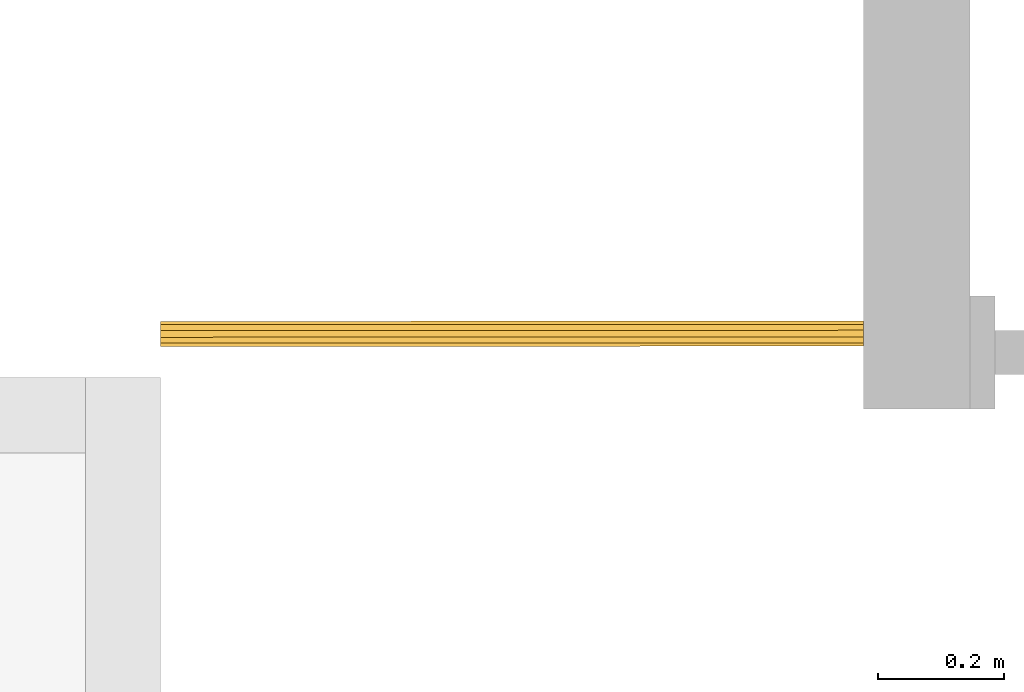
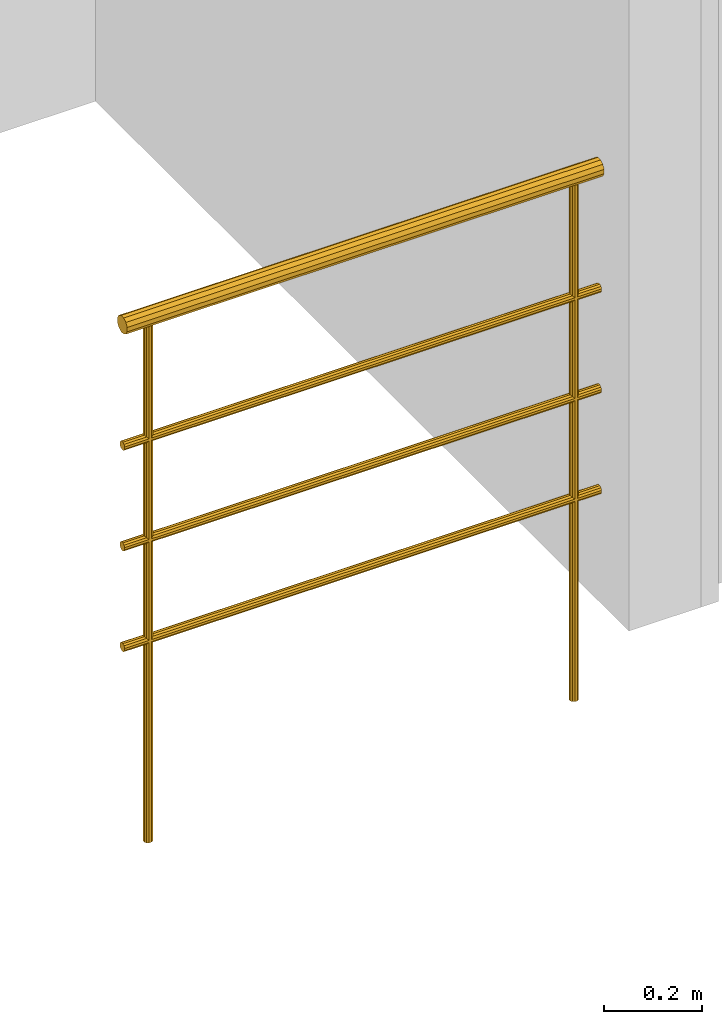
"""IFC4 building model written with IfcOpenShell, lengths in metres."""

from ifc_helpers import new_model, entity, si_unit, converted_unit, derived_unit, frame, origin, place, context, subcontext, project, spatial, faceted_brep, element, save


model = new_model("IFC4")

# Units and contexts
model_context = context("Model", 3, precision=1e-05, world=origin())
body_context = subcontext(model_context, "Body", "Model", "MODEL_VIEW")
ifc_project = project(units=[si_unit("LENGTHUNIT", "METRE"), si_unit("AREAUNIT", "SQUARE_METRE"), si_unit("VOLUMEUNIT", "CUBIC_METRE"), si_unit("MASSUNIT", "GRAM", prefix="KILO"), converted_unit("PLANEANGLEUNIT", "DEGREE", entity("IfcPlaneAngleMeasure", 0.0174532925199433), si_unit("PLANEANGLEUNIT", "RADIAN"), dimensions=[0, 0, 0, 0, 0, 0, 0]), derived_unit("THERMALTRANSMITTANCEUNIT", [(si_unit("POWERUNIT", "WATT"), 1), (si_unit("THERMODYNAMICTEMPERATUREUNIT", "KELVIN"), -1), (si_unit("LENGTHUNIT", "METRE"), -2)]), derived_unit("VOLUMETRICFLOWRATEUNIT", [(si_unit("LENGTHUNIT", "METRE"), 3), (converted_unit("TIMEUNIT", "hour", entity("IfcTimeMeasure", 3600.0), si_unit("TIMEUNIT", "SECOND"), dimensions=[0, 0, 1, 0, 0, 0, 0]), -1), (si_unit("LENGTHUNIT", "METRE"), -1)])], contexts=[model_context])

# Building, storeys
building_placement = place(None, origin())
building = spatial("IfcBuilding", under=ifc_project, at=building_placement, Name="HABITATGE PLURIFAMILIAR", CompositionType="ELEMENT")
storey_1_placement = place(building_placement, frame((0.0, 0.0, 21.2)))
storey_1 = spatial("IfcBuildingStorey", under=building, at=storey_1_placement, Name="PLANTA SOTACOBERTA", CompositionType="ELEMENT", Elevation=21.2)
storey_2_placement = place(storey_1_placement, origin())
storey_2 = spatial("IfcBuildingStorey", under=storey_1, at=storey_2_placement, Name="NOU", CompositionType="PARTIAL")

# Railing
railing_placement = place(storey_2_placement, frame((414.656916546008, 25.9893812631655, -0.220064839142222)))
element("IfcRailing", 1, at=railing_placement, inside=storey_2, Name="Baranna PSC", context=body_context, shape_type="Brep", body=[
    faceted_brep([(0.0, 0.0399999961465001, 1.30535898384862), (2.35231395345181e-06, 0.034641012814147, 1.31464101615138), (6.42664113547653e-06, 0.0253589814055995, 1.32), (1.11312690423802e-05, 0.0146410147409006, 1.32), (1.52055962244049e-05, 0.00535898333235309, 1.31464101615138), (1.75579101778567e-05, 0.0, 1.30535898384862), (1.75579101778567e-05, 0.0, 1.29464101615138), (1.52055962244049e-05, 0.00535898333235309, 1.28535898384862), (1.11312690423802e-05, 0.0146410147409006, 1.28), (6.42664113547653e-06, 0.0253589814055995, 1.28), (2.35231395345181e-06, 0.034641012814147, 1.28535898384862), (0.0, 0.0399999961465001, 1.29464101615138), (1.12005218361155, 0.040491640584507, 1.30535898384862), (1.12005218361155, 0.040491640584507, 1.29464101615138), (1.1200545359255, 0.0351326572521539, 1.28535898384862), (1.12005861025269, 0.0258506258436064, 1.28), (1.12006331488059, 0.0151326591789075, 1.28), (1.12006738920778, 0.00585062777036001, 1.28535898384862), (1.12006974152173, 0.000491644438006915, 1.29464101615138), (1.12006974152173, 0.000491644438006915, 1.30535898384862), (1.12006738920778, 0.00585062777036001, 1.31464101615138), (1.12006331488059, 0.0151326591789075, 1.32), (1.12005861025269, 0.0258506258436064, 1.32), (1.1200545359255, 0.0351326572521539, 1.31464101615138)], [[[0, 1, 2, 3, 4, 5, 6, 7, 8, 9, 10, 11]], [[12, 13, 14, 15, 16, 17, 18, 19, 20, 21, 22, 23]], [[0, 12, 23, 1]], [[1, 23, 22, 2]], [[2, 22, 21, 3]], [[3, 21, 20, 4]], [[4, 20, 19, 5]], [[5, 19, 18, 6]], [[6, 18, 17, 7]], [[7, 17, 16, 8]], [[8, 16, 15, 9]], [[9, 15, 14, 10]], [[10, 14, 13, 11]], [[11, 13, 12, 0]]], orient=[[False], [False], [False], [False], [False], [False], [False], [False], [False], [False], [False], [False], [False], [False]]),
    faceted_brep([(0.0700337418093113, 0.0227102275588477, 0.0), (0.0673522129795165, 0.0273500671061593, 0.0), (0.0627100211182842, 0.0300275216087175, 0.0), (0.0573510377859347, 0.0300251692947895, 0.0), (0.0527111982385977, 0.0273436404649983, 0.0), (0.0500337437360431, 0.0227014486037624, 0.0), (0.0500360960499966, 0.0173424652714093, 0.0), (0.0527176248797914, 0.0127026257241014, 0.0), (0.0573598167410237, 0.0100251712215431, 0.0), (0.0627188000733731, 0.0100275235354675, 0.0), (0.067358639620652, 0.0127090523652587, 0.0), (0.0700360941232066, 0.0173512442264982, 0.0), (0.0700337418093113, 0.0227102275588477, 1.3), (0.0700360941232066, 0.0173512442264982, 1.3), (0.067358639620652, 0.0127090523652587, 1.3), (0.0627188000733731, 0.0100275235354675, 1.3), (0.0573598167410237, 0.0100251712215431, 1.3), (0.0527176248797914, 0.0127026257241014, 1.3), (0.0500360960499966, 0.0173424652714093, 1.3), (0.0500337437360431, 0.0227014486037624, 1.3), (0.0527111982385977, 0.0273436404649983, 1.3), (0.0573510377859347, 0.0300251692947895, 1.3), (0.0627100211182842, 0.0300275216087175, 1.3), (0.0673522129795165, 0.0273500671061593, 1.3)], [[[0, 1, 2, 3, 4, 5, 6, 7, 8, 9, 10, 11]], [[12, 13, 14, 15, 16, 17, 18, 19, 20, 21, 22, 23]], [[0, 12, 23, 1]], [[1, 23, 22, 2]], [[2, 22, 21, 3]], [[3, 21, 20, 4]], [[4, 20, 19, 5]], [[5, 19, 18, 6]], [[6, 18, 17, 7]], [[7, 17, 16, 8]], [[8, 16, 15, 9]], [[9, 15, 14, 10]], [[10, 14, 13, 11]], [[11, 13, 12, 0]]], orient=[[False], [False], [False], [False], [False], [False], [False], [False], [False], [False], [False], [False], [False], [False]]),
    faceted_brep([(0.0700337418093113, 0.0227102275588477, 0.0), (0.0673522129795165, 0.0273500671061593, 0.0), (0.0627100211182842, 0.0300275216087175, 0.0), (0.0573510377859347, 0.0300251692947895, 0.0), (0.0527111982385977, 0.0273436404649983, 0.0), (0.0500337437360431, 0.0227014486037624, 0.0), (0.0500360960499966, 0.0173424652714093, 0.0), (0.0527176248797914, 0.0127026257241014, 0.0), (0.0573598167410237, 0.0100251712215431, 0.0), (0.0627188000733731, 0.0100275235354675, 0.0), (0.067358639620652, 0.0127090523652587, 0.0), (0.0700360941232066, 0.0173512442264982, 0.0), (0.0700337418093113, 0.0227102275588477, 1.3), (0.0700360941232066, 0.0173512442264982, 1.3), (0.067358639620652, 0.0127090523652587, 1.3), (0.0627188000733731, 0.0100275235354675, 1.3), (0.0573598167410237, 0.0100251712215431, 1.3), (0.0527176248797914, 0.0127026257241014, 1.3), (0.0500360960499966, 0.0173424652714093, 1.3), (0.0500337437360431, 0.0227014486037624, 1.3), (0.0527111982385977, 0.0273436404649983, 1.3), (0.0573510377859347, 0.0300251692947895, 1.3), (0.0627100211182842, 0.0300275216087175, 1.3), (0.0673522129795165, 0.0273500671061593, 1.3)], [[[0, 1, 2, 3, 4, 5, 6, 7, 8, 9, 10, 11]], [[12, 13, 14, 15, 16, 17, 18, 19, 20, 21, 22, 23]], [[0, 12, 23, 1]], [[1, 23, 22, 2]], [[2, 22, 21, 3]], [[3, 21, 20, 4]], [[4, 20, 19, 5]], [[5, 19, 18, 6]], [[6, 18, 17, 7]], [[7, 17, 16, 8]], [[8, 16, 15, 9]], [[9, 15, 14, 10]], [[10, 14, 13, 11]], [[11, 13, 12, 0]]], orient=[[False], [False], [False], [False], [False], [False], [False], [False], [False], [False], [False], [False], [False], [False]]),
    faceted_brep([(0.0700337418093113, 0.0227102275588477, 0.0), (0.0673522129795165, 0.0273500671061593, 0.0), (0.0627100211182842, 0.0300275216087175, 0.0), (0.0573510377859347, 0.0300251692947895, 0.0), (0.0527111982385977, 0.0273436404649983, 0.0), (0.0500337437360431, 0.0227014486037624, 0.0), (0.0500360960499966, 0.0173424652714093, 0.0), (0.0527176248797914, 0.0127026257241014, 0.0), (0.0573598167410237, 0.0100251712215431, 0.0), (0.0627188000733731, 0.0100275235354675, 0.0), (0.067358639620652, 0.0127090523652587, 0.0), (0.0700360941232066, 0.0173512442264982, 0.0), (0.0700337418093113, 0.0227102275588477, 1.3), (0.0700360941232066, 0.0173512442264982, 1.3), (0.067358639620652, 0.0127090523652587, 1.3), (0.0627188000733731, 0.0100275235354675, 1.3), (0.0573598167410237, 0.0100251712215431, 1.3), (0.0527176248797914, 0.0127026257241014, 1.3), (0.0500360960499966, 0.0173424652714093, 1.3), (0.0500337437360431, 0.0227014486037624, 1.3), (0.0527111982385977, 0.0273436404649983, 1.3), (0.0573510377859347, 0.0300251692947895, 1.3), (0.0627100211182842, 0.0300275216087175, 1.3), (0.0673522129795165, 0.0273500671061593, 1.3)], [[[0, 1, 2, 3, 4, 5, 6, 7, 8, 9, 10, 11]], [[12, 13, 14, 15, 16, 17, 18, 19, 20, 21, 22, 23]], [[0, 12, 23, 1]], [[1, 23, 22, 2]], [[2, 22, 21, 3]], [[3, 21, 20, 4]], [[4, 20, 19, 5]], [[5, 19, 18, 6]], [[6, 18, 17, 7]], [[7, 17, 16, 8]], [[8, 16, 15, 9]], [[9, 15, 14, 10]], [[10, 14, 13, 11]], [[11, 13, 12, 0]]], orient=[[False], [False], [False], [False], [False], [False], [False], [False], [False], [False], [False], [False], [False], [False]]),
    faceted_brep([(1.07003364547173, 0.0231491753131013, 0.0), (1.06735211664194, 0.0277890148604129, 0.0), (1.06270992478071, 0.0304664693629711, 0.0), (1.05735094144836, 0.0304641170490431, 0.0), (1.05271110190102, 0.0277825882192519, 0.0), (1.05003364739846, 0.023140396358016, 0.0), (1.05003599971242, 0.0177814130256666, 0.0), (1.05271752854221, 0.013141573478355, 0.0), (1.05735972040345, 0.0104641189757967, 0.0), (1.06271870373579, 0.0104664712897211, 0.0), (1.06735854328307, 0.0131480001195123, 0.0), (1.07003599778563, 0.0177901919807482, 0.0), (1.07003364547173, 0.0231491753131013, 1.3), (1.07003599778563, 0.0177901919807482, 1.3), (1.06735854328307, 0.0131480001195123, 1.3), (1.06271870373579, 0.0104664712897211, 1.3), (1.05735972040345, 0.0104641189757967, 1.3), (1.05271752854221, 0.013141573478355, 1.3), (1.05003599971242, 0.0177814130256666, 1.3), (1.05003364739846, 0.023140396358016, 1.3), (1.05271110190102, 0.0277825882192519, 1.3), (1.05735094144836, 0.0304641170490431, 1.3), (1.06270992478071, 0.0304664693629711, 1.3), (1.06735211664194, 0.0277890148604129, 1.3)], [[[0, 1, 2, 3, 4, 5, 6, 7, 8, 9, 10, 11]], [[12, 13, 14, 15, 16, 17, 18, 19, 20, 21, 22, 23]], [[0, 12, 23, 1]], [[1, 23, 22, 2]], [[2, 22, 21, 3]], [[3, 21, 20, 4]], [[4, 20, 19, 5]], [[5, 19, 18, 6]], [[6, 18, 17, 7]], [[7, 17, 16, 8]], [[8, 16, 15, 9]], [[9, 15, 14, 10]], [[10, 14, 13, 11]], [[11, 13, 12, 0]]], orient=[[False], [False], [False], [False], [False], [False], [False], [False], [False], [False], [False], [False], [False], [False]]),
    faceted_brep([(1.07003364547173, 0.0231491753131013, 0.0), (1.06735211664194, 0.0277890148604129, 0.0), (1.06270992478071, 0.0304664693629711, 0.0), (1.05735094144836, 0.0304641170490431, 0.0), (1.05271110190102, 0.0277825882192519, 0.0), (1.05003364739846, 0.023140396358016, 0.0), (1.05003599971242, 0.0177814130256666, 0.0), (1.05271752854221, 0.013141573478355, 0.0), (1.05735972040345, 0.0104641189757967, 0.0), (1.06271870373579, 0.0104664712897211, 0.0), (1.06735854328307, 0.0131480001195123, 0.0), (1.07003599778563, 0.0177901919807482, 0.0), (1.07003364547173, 0.0231491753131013, 1.3), (1.07003599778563, 0.0177901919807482, 1.3), (1.06735854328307, 0.0131480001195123, 1.3), (1.06271870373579, 0.0104664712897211, 1.3), (1.05735972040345, 0.0104641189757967, 1.3), (1.05271752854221, 0.013141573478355, 1.3), (1.05003599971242, 0.0177814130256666, 1.3), (1.05003364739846, 0.023140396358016, 1.3), (1.05271110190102, 0.0277825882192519, 1.3), (1.05735094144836, 0.0304641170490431, 1.3), (1.06270992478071, 0.0304664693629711, 1.3), (1.06735211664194, 0.0277890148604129, 1.3)], [[[0, 1, 2, 3, 4, 5, 6, 7, 8, 9, 10, 11]], [[12, 13, 14, 15, 16, 17, 18, 19, 20, 21, 22, 23]], [[0, 12, 23, 1]], [[1, 23, 22, 2]], [[2, 22, 21, 3]], [[3, 21, 20, 4]], [[4, 20, 19, 5]], [[5, 19, 18, 6]], [[6, 18, 17, 7]], [[7, 17, 16, 8]], [[8, 16, 15, 9]], [[9, 15, 14, 10]], [[10, 14, 13, 11]], [[11, 13, 12, 0]]], orient=[[False], [False], [False], [False], [False], [False], [False], [False], [False], [False], [False], [False], [False], [False]]),
    faceted_brep([(1.07003364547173, 0.0231491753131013, 0.0), (1.06735211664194, 0.0277890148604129, 0.0), (1.06270992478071, 0.0304664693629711, 0.0), (1.05735094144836, 0.0304641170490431, 0.0), (1.05271110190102, 0.0277825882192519, 0.0), (1.05003364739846, 0.023140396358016, 0.0), (1.05003599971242, 0.0177814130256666, 0.0), (1.05271752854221, 0.013141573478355, 0.0), (1.05735972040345, 0.0104641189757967, 0.0), (1.06271870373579, 0.0104664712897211, 0.0), (1.06735854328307, 0.0131480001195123, 0.0), (1.07003599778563, 0.0177901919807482, 0.0), (1.07003364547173, 0.0231491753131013, 1.3), (1.07003599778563, 0.0177901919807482, 1.3), (1.06735854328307, 0.0131480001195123, 1.3), (1.06271870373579, 0.0104664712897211, 1.3), (1.05735972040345, 0.0104641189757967, 1.3), (1.05271752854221, 0.013141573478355, 1.3), (1.05003599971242, 0.0177814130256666, 1.3), (1.05003364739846, 0.023140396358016, 1.3), (1.05271110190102, 0.0277825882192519, 1.3), (1.05735094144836, 0.0304641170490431, 1.3), (1.06270992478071, 0.0304664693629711, 1.3), (1.06735211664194, 0.0277890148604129, 1.3)], [[[0, 1, 2, 3, 4, 5, 6, 7, 8, 9, 10, 11]], [[12, 13, 14, 15, 16, 17, 18, 19, 20, 21, 22, 23]], [[0, 12, 23, 1]], [[1, 23, 22, 2]], [[2, 22, 21, 3]], [[3, 21, 20, 4]], [[4, 20, 19, 5]], [[5, 19, 18, 6]], [[6, 18, 17, 7]], [[7, 17, 16, 8]], [[8, 16, 15, 9]], [[9, 15, 14, 10]], [[10, 14, 13, 11]], [[11, 13, 12, 0]]], orient=[[False], [False], [False], [False], [False], [False], [False], [False], [False], [False], [False], [False], [False], [False]]),
    faceted_brep([(4.38947754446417e-06, 0.0299999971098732, 0.502679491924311), (5.56563452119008e-06, 0.0273205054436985, 0.507320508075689), (7.60279811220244e-06, 0.0226794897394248, 0.51), (9.95511206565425e-06, 0.0173205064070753, 0.51), (1.19922756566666e-05, 0.0126794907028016, 0.507320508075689), (1.31684326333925e-05, 0.00999999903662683, 0.502679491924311), (1.31684326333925e-05, 0.00999999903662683, 0.497320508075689), (1.19922756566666e-05, 0.0126794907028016, 0.492679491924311), (9.95511206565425e-06, 0.0173205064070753, 0.49), (7.60279811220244e-06, 0.0226794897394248, 0.49), (5.56563452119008e-06, 0.0273205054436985, 0.492679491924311), (4.38947754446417e-06, 0.0299999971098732, 0.497320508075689), (0.0600305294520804, 0.0300263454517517, 0.502679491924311), (0.0600305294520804, 0.0300263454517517, 0.497320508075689), (0.0600317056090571, 0.027346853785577, 0.492679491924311), (0.0600337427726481, 0.0227058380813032, 0.49), (0.0600360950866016, 0.0173468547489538, 0.49), (0.0600381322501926, 0.01270583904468, 0.492679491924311), (0.0600393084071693, 0.0100263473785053, 0.497320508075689), (0.0600393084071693, 0.0100263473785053, 0.502679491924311), (0.0600381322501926, 0.01270583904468, 0.507320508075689), (0.0600360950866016, 0.0173468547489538, 0.51), (0.0600337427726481, 0.0227058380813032, 0.51), (0.0600317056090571, 0.027346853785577, 0.507320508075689)], [[[0, 1, 2, 3, 4, 5, 6, 7, 8, 9, 10, 11]], [[12, 13, 14, 15, 16, 17, 18, 19, 20, 21, 22, 23]], [[0, 12, 23, 1]], [[1, 23, 22, 2]], [[2, 22, 21, 3]], [[3, 21, 20, 4]], [[4, 20, 19, 5]], [[5, 19, 18, 6]], [[6, 18, 17, 7]], [[7, 17, 16, 8]], [[8, 16, 15, 9]], [[9, 15, 14, 10]], [[10, 14, 13, 11]], [[11, 13, 12, 0]]], orient=[[False], [False], [False], [False], [False], [False], [False], [False], [False], [False], [False], [False], [False], [False]]),
    faceted_brep([(4.38947754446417e-06, 0.0299999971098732, 0.752679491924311), (5.56563452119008e-06, 0.0273205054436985, 0.757320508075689), (7.60279811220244e-06, 0.0226794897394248, 0.76), (9.95511206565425e-06, 0.0173205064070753, 0.76), (1.19922756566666e-05, 0.0126794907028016, 0.757320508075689), (1.31684326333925e-05, 0.00999999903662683, 0.752679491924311), (1.31684326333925e-05, 0.00999999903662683, 0.747320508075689), (1.19922756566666e-05, 0.0126794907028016, 0.742679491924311), (9.95511206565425e-06, 0.0173205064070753, 0.74), (7.60279811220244e-06, 0.0226794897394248, 0.74), (5.56563452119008e-06, 0.0273205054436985, 0.742679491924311), (4.38947754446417e-06, 0.0299999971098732, 0.747320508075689), (0.0600305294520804, 0.0300263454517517, 0.752679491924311), (0.0600305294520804, 0.0300263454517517, 0.747320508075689), (0.0600317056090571, 0.027346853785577, 0.742679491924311), (0.0600337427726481, 0.0227058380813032, 0.74), (0.0600360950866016, 0.0173468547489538, 0.74), (0.0600381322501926, 0.01270583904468, 0.742679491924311), (0.0600393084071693, 0.0100263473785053, 0.747320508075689), (0.0600393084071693, 0.0100263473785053, 0.752679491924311), (0.0600381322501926, 0.01270583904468, 0.757320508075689), (0.0600360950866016, 0.0173468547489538, 0.76), (0.0600337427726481, 0.0227058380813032, 0.76), (0.0600317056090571, 0.027346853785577, 0.757320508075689)], [[[0, 1, 2, 3, 4, 5, 6, 7, 8, 9, 10, 11]], [[12, 13, 14, 15, 16, 17, 18, 19, 20, 21, 22, 23]], [[0, 12, 23, 1]], [[1, 23, 22, 2]], [[2, 22, 21, 3]], [[3, 21, 20, 4]], [[4, 20, 19, 5]], [[5, 19, 18, 6]], [[6, 18, 17, 7]], [[7, 17, 16, 8]], [[8, 16, 15, 9]], [[9, 15, 14, 10]], [[10, 14, 13, 11]], [[11, 13, 12, 0]]], orient=[[False], [False], [False], [False], [False], [False], [False], [False], [False], [False], [False], [False], [False], [False]]),
    faceted_brep([(4.38947754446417e-06, 0.0299999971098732, 1.00267949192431), (5.56563452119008e-06, 0.0273205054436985, 1.00732050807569), (7.60279811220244e-06, 0.0226794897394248, 1.01), (9.95511206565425e-06, 0.0173205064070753, 1.01), (1.19922756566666e-05, 0.0126794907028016, 1.00732050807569), (1.31684326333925e-05, 0.00999999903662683, 1.00267949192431), (1.31684326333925e-05, 0.00999999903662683, 0.997320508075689), (1.19922756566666e-05, 0.0126794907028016, 0.992679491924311), (9.95511206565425e-06, 0.0173205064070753, 0.99), (7.60279811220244e-06, 0.0226794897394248, 0.99), (5.56563452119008e-06, 0.0273205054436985, 0.992679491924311), (4.38947754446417e-06, 0.0299999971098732, 0.997320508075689), (0.0600305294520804, 0.0300263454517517, 1.00267949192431), (0.0600305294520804, 0.0300263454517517, 0.997320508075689), (0.0600317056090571, 0.027346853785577, 0.992679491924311), (0.0600337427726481, 0.0227058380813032, 0.99), (0.0600360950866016, 0.0173468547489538, 0.99), (0.0600381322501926, 0.01270583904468, 0.992679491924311), (0.0600393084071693, 0.0100263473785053, 0.997320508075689), (0.0600393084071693, 0.0100263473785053, 1.00267949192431), (0.0600381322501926, 0.01270583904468, 1.00732050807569), (0.0600360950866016, 0.0173468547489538, 1.01), (0.0600337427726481, 0.0227058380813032, 1.01), (0.0600317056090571, 0.027346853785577, 1.00732050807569)], [[[0, 1, 2, 3, 4, 5, 6, 7, 8, 9, 10, 11]], [[12, 13, 14, 15, 16, 17, 18, 19, 20, 21, 22, 23]], [[0, 12, 23, 1]], [[1, 23, 22, 2]], [[2, 22, 21, 3]], [[3, 21, 20, 4]], [[4, 20, 19, 5]], [[5, 19, 18, 6]], [[6, 18, 17, 7]], [[7, 17, 16, 8]], [[8, 16, 15, 9]], [[9, 15, 14, 10]], [[10, 14, 13, 11]], [[11, 13, 12, 0]]], orient=[[False], [False], [False], [False], [False], [False], [False], [False], [False], [False], [False], [False], [False], [False]]),
    faceted_brep([(0.0600305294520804, 0.0300263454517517, 0.502679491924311), (0.0600317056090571, 0.027346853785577, 0.507320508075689), (0.0600337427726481, 0.0227058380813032, 0.51), (0.0600360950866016, 0.0173468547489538, 0.51), (0.0600381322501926, 0.01270583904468, 0.507320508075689), (0.0600393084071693, 0.0100263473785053, 0.502679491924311), (0.0600393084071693, 0.0100263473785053, 0.497320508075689), (0.0600381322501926, 0.01270583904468, 0.492679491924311), (0.0600360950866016, 0.0173468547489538, 0.49), (0.0600337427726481, 0.0227058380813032, 0.49), (0.0600317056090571, 0.027346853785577, 0.492679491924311), (0.0600305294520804, 0.0300263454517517, 0.497320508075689), (1.0600304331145, 0.0304652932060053, 0.502679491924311), (1.0600304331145, 0.0304652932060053, 0.497320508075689), (1.06003160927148, 0.0277858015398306, 0.492679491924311), (1.06003364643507, 0.0231447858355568, 0.49), (1.06003599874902, 0.0177858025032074, 0.49), (1.06003803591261, 0.0131447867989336, 0.492679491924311), (1.06003921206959, 0.0104652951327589, 0.497320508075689), (1.06003921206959, 0.0104652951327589, 0.502679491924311), (1.06003803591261, 0.0131447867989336, 0.507320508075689), (1.06003599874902, 0.0177858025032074, 0.51), (1.06003364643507, 0.0231447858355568, 0.51), (1.06003160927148, 0.0277858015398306, 0.507320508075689)], [[[0, 1, 2, 3, 4, 5, 6, 7, 8, 9, 10, 11]], [[12, 13, 14, 15, 16, 17, 18, 19, 20, 21, 22, 23]], [[0, 12, 23, 1]], [[1, 23, 22, 2]], [[2, 22, 21, 3]], [[3, 21, 20, 4]], [[4, 20, 19, 5]], [[5, 19, 18, 6]], [[6, 18, 17, 7]], [[7, 17, 16, 8]], [[8, 16, 15, 9]], [[9, 15, 14, 10]], [[10, 14, 13, 11]], [[11, 13, 12, 0]]], orient=[[False], [False], [False], [False], [False], [False], [False], [False], [False], [False], [False], [False], [False], [False]]),
    faceted_brep([(0.0600305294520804, 0.0300263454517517, 0.752679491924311), (0.0600317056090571, 0.027346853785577, 0.757320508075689), (0.0600337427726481, 0.0227058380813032, 0.76), (0.0600360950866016, 0.0173468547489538, 0.76), (0.0600381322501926, 0.01270583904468, 0.757320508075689), (0.0600393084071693, 0.0100263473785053, 0.752679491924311), (0.0600393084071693, 0.0100263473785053, 0.747320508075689), (0.0600381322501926, 0.01270583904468, 0.742679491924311), (0.0600360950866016, 0.0173468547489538, 0.74), (0.0600337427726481, 0.0227058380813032, 0.74), (0.0600317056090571, 0.027346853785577, 0.742679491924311), (0.0600305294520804, 0.0300263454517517, 0.747320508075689), (1.0600304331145, 0.0304652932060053, 0.752679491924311), (1.0600304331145, 0.0304652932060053, 0.747320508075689), (1.06003160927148, 0.0277858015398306, 0.742679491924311), (1.06003364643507, 0.0231447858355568, 0.74), (1.06003599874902, 0.0177858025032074, 0.74), (1.06003803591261, 0.0131447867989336, 0.742679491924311), (1.06003921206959, 0.0104652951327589, 0.747320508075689), (1.06003921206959, 0.0104652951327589, 0.752679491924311), (1.06003803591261, 0.0131447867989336, 0.757320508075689), (1.06003599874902, 0.0177858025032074, 0.76), (1.06003364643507, 0.0231447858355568, 0.76), (1.06003160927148, 0.0277858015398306, 0.757320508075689)], [[[0, 1, 2, 3, 4, 5, 6, 7, 8, 9, 10, 11]], [[12, 13, 14, 15, 16, 17, 18, 19, 20, 21, 22, 23]], [[0, 12, 23, 1]], [[1, 23, 22, 2]], [[2, 22, 21, 3]], [[3, 21, 20, 4]], [[4, 20, 19, 5]], [[5, 19, 18, 6]], [[6, 18, 17, 7]], [[7, 17, 16, 8]], [[8, 16, 15, 9]], [[9, 15, 14, 10]], [[10, 14, 13, 11]], [[11, 13, 12, 0]]], orient=[[False], [False], [False], [False], [False], [False], [False], [False], [False], [False], [False], [False], [False], [False]]),
    faceted_brep([(0.0600305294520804, 0.0300263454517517, 1.00267949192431), (0.0600317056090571, 0.027346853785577, 1.00732050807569), (0.0600337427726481, 0.0227058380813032, 1.01), (0.0600360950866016, 0.0173468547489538, 1.01), (0.0600381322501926, 0.01270583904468, 1.00732050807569), (0.0600393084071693, 0.0100263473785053, 1.00267949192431), (0.0600393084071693, 0.0100263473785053, 0.997320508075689), (0.0600381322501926, 0.01270583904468, 0.992679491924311), (0.0600360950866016, 0.0173468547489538, 0.99), (0.0600337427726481, 0.0227058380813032, 0.99), (0.0600317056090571, 0.027346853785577, 0.992679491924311), (0.0600305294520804, 0.0300263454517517, 0.997320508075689), (1.0600304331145, 0.0304652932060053, 1.00267949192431), (1.0600304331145, 0.0304652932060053, 0.997320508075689), (1.06003160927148, 0.0277858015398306, 0.992679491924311), (1.06003364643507, 0.0231447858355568, 0.99), (1.06003599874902, 0.0177858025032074, 0.99), (1.06003803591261, 0.0131447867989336, 0.992679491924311), (1.06003921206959, 0.0104652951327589, 0.997320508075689), (1.06003921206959, 0.0104652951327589, 1.00267949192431), (1.06003803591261, 0.0131447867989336, 1.00732050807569), (1.06003599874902, 0.0177858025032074, 1.01), (1.06003364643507, 0.0231447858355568, 1.01), (1.06003160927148, 0.0277858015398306, 1.00732050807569)], [[[0, 1, 2, 3, 4, 5, 6, 7, 8, 9, 10, 11]], [[12, 13, 14, 15, 16, 17, 18, 19, 20, 21, 22, 23]], [[0, 12, 23, 1]], [[1, 23, 22, 2]], [[2, 22, 21, 3]], [[3, 21, 20, 4]], [[4, 20, 19, 5]], [[5, 19, 18, 6]], [[6, 18, 17, 7]], [[7, 17, 16, 8]], [[8, 16, 15, 9]], [[9, 15, 14, 10]], [[10, 14, 13, 11]], [[11, 13, 12, 0]]], orient=[[False], [False], [False], [False], [False], [False], [False], [False], [False], [False], [False], [False], [False], [False]]),
    faceted_brep([(1.0600304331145, 0.0304652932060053, 0.502679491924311), (1.06003160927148, 0.0277858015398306, 0.507320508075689), (1.06003364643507, 0.0231447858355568, 0.51), (1.06003599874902, 0.0177858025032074, 0.51), (1.06003803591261, 0.0131447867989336, 0.507320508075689), (1.06003921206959, 0.0104652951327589, 0.502679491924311), (1.06003921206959, 0.0104652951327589, 0.497320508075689), (1.06003803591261, 0.0131447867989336, 0.492679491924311), (1.06003599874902, 0.0177858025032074, 0.49), (1.06003364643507, 0.0231447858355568, 0.49), (1.06003160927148, 0.0277858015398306, 0.492679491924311), (1.0600304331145, 0.0304652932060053, 0.497320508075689), (1.1200565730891, 0.0304916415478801, 0.502679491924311), (1.1200565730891, 0.0304916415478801, 0.497320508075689), (1.12005774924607, 0.0278121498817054, 0.492679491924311), (1.12005978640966, 0.0231711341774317, 0.49), (1.12006213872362, 0.0178121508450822, 0.49), (1.12006417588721, 0.0131711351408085, 0.492679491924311), (1.12006535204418, 0.0104916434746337, 0.497320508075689), (1.12006535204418, 0.0104916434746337, 0.502679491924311), (1.12006417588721, 0.0131711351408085, 0.507320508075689), (1.12006213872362, 0.0178121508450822, 0.51), (1.12005978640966, 0.0231711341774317, 0.51), (1.12005774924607, 0.0278121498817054, 0.507320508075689)], [[[0, 1, 2, 3, 4, 5, 6, 7, 8, 9, 10, 11]], [[12, 13, 14, 15, 16, 17, 18, 19, 20, 21, 22, 23]], [[0, 12, 23, 1]], [[1, 23, 22, 2]], [[2, 22, 21, 3]], [[3, 21, 20, 4]], [[4, 20, 19, 5]], [[5, 19, 18, 6]], [[6, 18, 17, 7]], [[7, 17, 16, 8]], [[8, 16, 15, 9]], [[9, 15, 14, 10]], [[10, 14, 13, 11]], [[11, 13, 12, 0]]], orient=[[False], [False], [False], [False], [False], [False], [False], [False], [False], [False], [False], [False], [False], [False]]),
    faceted_brep([(1.0600304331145, 0.0304652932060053, 0.752679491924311), (1.06003160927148, 0.0277858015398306, 0.757320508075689), (1.06003364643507, 0.0231447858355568, 0.76), (1.06003599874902, 0.0177858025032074, 0.76), (1.06003803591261, 0.0131447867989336, 0.757320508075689), (1.06003921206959, 0.0104652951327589, 0.752679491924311), (1.06003921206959, 0.0104652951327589, 0.747320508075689), (1.06003803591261, 0.0131447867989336, 0.742679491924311), (1.06003599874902, 0.0177858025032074, 0.74), (1.06003364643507, 0.0231447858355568, 0.74), (1.06003160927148, 0.0277858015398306, 0.742679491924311), (1.0600304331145, 0.0304652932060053, 0.747320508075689), (1.1200565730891, 0.0304916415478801, 0.752679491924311), (1.1200565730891, 0.0304916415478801, 0.747320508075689), (1.12005774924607, 0.0278121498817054, 0.742679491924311), (1.12005978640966, 0.0231711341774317, 0.74), (1.12006213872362, 0.0178121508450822, 0.74), (1.12006417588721, 0.0131711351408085, 0.742679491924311), (1.12006535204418, 0.0104916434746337, 0.747320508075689), (1.12006535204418, 0.0104916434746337, 0.752679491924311), (1.12006417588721, 0.0131711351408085, 0.757320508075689), (1.12006213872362, 0.0178121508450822, 0.76), (1.12005978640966, 0.0231711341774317, 0.76), (1.12005774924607, 0.0278121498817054, 0.757320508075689)], [[[0, 1, 2, 3, 4, 5, 6, 7, 8, 9, 10, 11]], [[12, 13, 14, 15, 16, 17, 18, 19, 20, 21, 22, 23]], [[0, 12, 23, 1]], [[1, 23, 22, 2]], [[2, 22, 21, 3]], [[3, 21, 20, 4]], [[4, 20, 19, 5]], [[5, 19, 18, 6]], [[6, 18, 17, 7]], [[7, 17, 16, 8]], [[8, 16, 15, 9]], [[9, 15, 14, 10]], [[10, 14, 13, 11]], [[11, 13, 12, 0]]], orient=[[False], [False], [False], [False], [False], [False], [False], [False], [False], [False], [False], [False], [False], [False]]),
    faceted_brep([(1.0600304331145, 0.0304652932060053, 1.00267949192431), (1.06003160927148, 0.0277858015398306, 1.00732050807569), (1.06003364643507, 0.0231447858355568, 1.01), (1.06003599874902, 0.0177858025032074, 1.01), (1.06003803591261, 0.0131447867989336, 1.00732050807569), (1.06003921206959, 0.0104652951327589, 1.00267949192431), (1.06003921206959, 0.0104652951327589, 0.997320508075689), (1.06003803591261, 0.0131447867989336, 0.992679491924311), (1.06003599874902, 0.0177858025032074, 0.99), (1.06003364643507, 0.0231447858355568, 0.99), (1.06003160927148, 0.0277858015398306, 0.992679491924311), (1.0600304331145, 0.0304652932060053, 0.997320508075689), (1.1200565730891, 0.0304916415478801, 1.00267949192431), (1.1200565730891, 0.0304916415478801, 0.997320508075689), (1.12005774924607, 0.0278121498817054, 0.992679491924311), (1.12005978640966, 0.0231711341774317, 0.99), (1.12006213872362, 0.0178121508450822, 0.99), (1.12006417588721, 0.0131711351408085, 0.992679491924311), (1.12006535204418, 0.0104916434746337, 0.997320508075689), (1.12006535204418, 0.0104916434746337, 1.00267949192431), (1.12006417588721, 0.0131711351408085, 1.00732050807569), (1.12006213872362, 0.0178121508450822, 1.01), (1.12005978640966, 0.0231711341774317, 1.01), (1.12005774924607, 0.0278121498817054, 1.00732050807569)], [[[0, 1, 2, 3, 4, 5, 6, 7, 8, 9, 10, 11]], [[12, 13, 14, 15, 16, 17, 18, 19, 20, 21, 22, 23]], [[0, 12, 23, 1]], [[1, 23, 22, 2]], [[2, 22, 21, 3]], [[3, 21, 20, 4]], [[4, 20, 19, 5]], [[5, 19, 18, 6]], [[6, 18, 17, 7]], [[7, 17, 16, 8]], [[8, 16, 15, 9]], [[9, 15, 14, 10]], [[10, 14, 13, 11]], [[11, 13, 12, 0]]], orient=[[False], [False], [False], [False], [False], [False], [False], [False], [False], [False], [False], [False], [False], [False]]),
])

save(model, "model.ifc")
